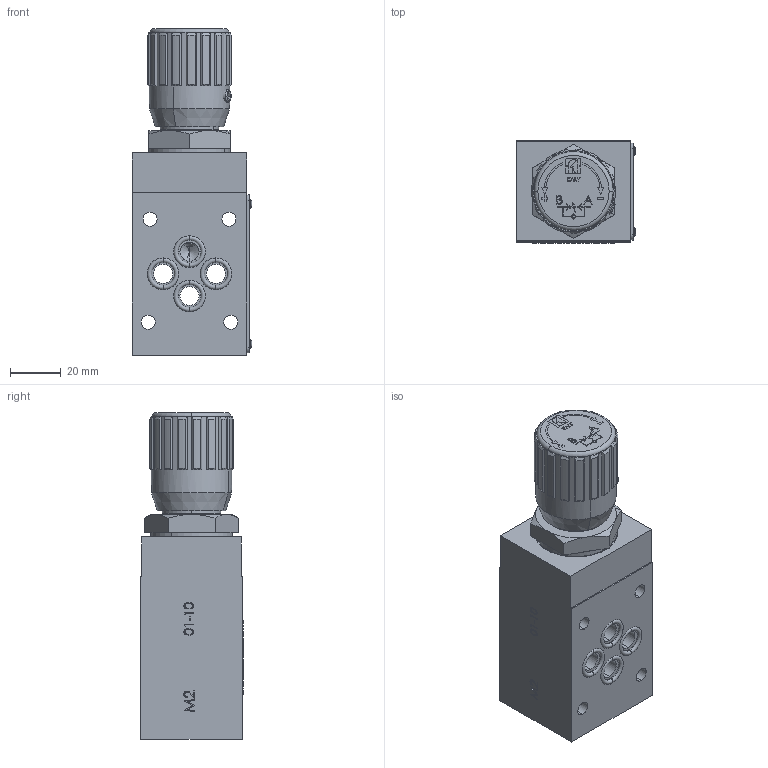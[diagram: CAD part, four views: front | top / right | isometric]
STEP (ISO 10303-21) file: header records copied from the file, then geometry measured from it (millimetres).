
FILE_DESCRIPTION (( 'STEP AP214' ), '1' );
FILE_NAME ('FT357-5-A-03-H.STEP', '2014-06-17T05:11:42', ( '' ), ( '' ), 'SwSTEP 2.0', 'SolidWorks 2014', '' );
FILE_SCHEMA (( 'AUTOMOTIVE_DESIGN' ));
Length unit declared in the file: millimetre
Products named in the file (21): 267-5-018000-38; OR2018; BK2018; ViteM3_Semplice; 357-5-AB101000; RivettoTarga; 357-5-A015000-H; 357-5-A001000-H; DiscoFascetta257_5-38; VolantinoFT257-5_38_Tipo38; FT357-5-A-03-H; GranoFT257_5-38; CappuccioFT257-5_38_Tipo38; OR2037; OR2068; OR132; AnelloFermoFT1251_2-01-12; 257-6-009000-38; 267-5-002001-38; 267-5-008001-38; 267-5-017000-38
Assembly tree (26 placements, depth 2):
  FT357-5-A-03-H
    357-5-A001000-H
    357-5-A015000-H
    RivettoTarga  x4
    357-5-AB101000
    ViteM3_Semplice
    BK2018
    OR2018
    267-5-018000-38
    267-5-017000-38
    267-5-008001-38
    267-5-002001-38
    257-6-009000-38
    AnelloFermoFT1251_2-01-12
    OR132
    OR2068
    OR2037  x4
    CappuccioFT257-5_38_Tipo38
    GranoFT257_5-38
    VolantinoFT257-5_38_Tipo38
    DiscoFascetta257_5-38
Bounding box: 46.96 x 40.38 x 128.3 mm (x, y, z)
Volume: 161392.1 mm3; surface area: 60948.2 mm2
Topology: 26 solids, 26 shells, 2177 faces, 5541 edges, 3602 vertices
Faces by surface type: plane 1247, bspline 368, cylinder 311, cone 191, torus 58, sphere 2
Entity records: 103180 total; most frequent: CARTESIAN_POINT 37700, ORIENTED_EDGE 10858, DIRECTION 8878, EDGE_CURVE 5429, LINE 3670, VECTOR 3670, VERTEX_POINT 3548, AXIS2_PLACEMENT_3D 2604
